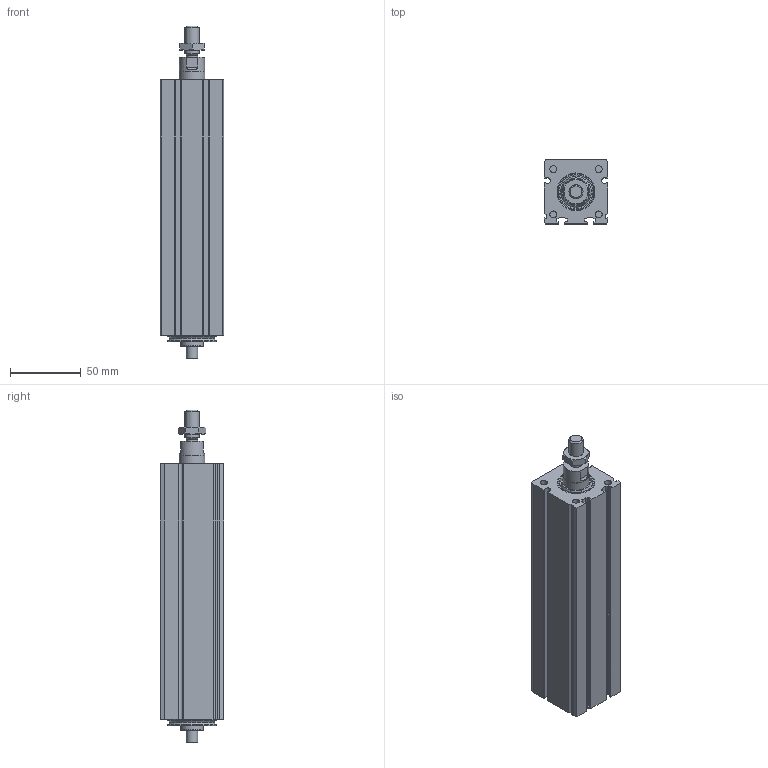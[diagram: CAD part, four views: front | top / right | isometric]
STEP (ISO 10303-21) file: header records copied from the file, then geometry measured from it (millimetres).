
FILE_DESCRIPTION(/* description */ ('STEP AP214'),/* implementation_level */ '2;1');
FILE_NAME(/* name */ 'MCE 45 1003 100 0(0)',/* time_stamp */ '2023-10-05T14:24:28+02:00',/* author */ ('License CC BY-ND 4.0'),/* organization */ ('CADENAS'),/* preprocessor_version */ 'ST-DEVELOPER v19.3',/* originating_system */ 'PARTsolutions',/* authorisation */ ' ');
FILE_SCHEMA (('AUTOMOTIVE_DESIGN {1 0 10303 214 3 1 1}'));
Length unit declared in the file: millimetre
Products named in the file (4): MCE 45 1003 100  0(0); 45_nut; 45(1000)_rod; 45(100)_msc
Assembly tree (3 placements, depth 2):
  MCE 45 1003 100  0(0)
    45_nut
    45(1000)_rod
    45(100)_msc
Bounding box: 45 x 45 x 234 mm (x, y, z)
Volume: 298516.4 mm3; surface area: 80711.3 mm2
Topology: 3 solids, 3 shells, 212 faces, 525 edges, 341 vertices
Faces by surface type: plane 92, cylinder 92, cone 23, torus 5
Full cylindrical faces by diameter (mm): 3.242 x4, 4.917 x4, 8 x2, 8.376 x1, 10 x1, 16 x1, 17.8 x1, 18 x2, 24 x1, 24.5 x1, 32.5 x2, 34 x2
Entity records: 6269 total; most frequent: CARTESIAN_POINT 1132, DIRECTION 1108, ORIENTED_EDGE 970, EDGE_CURVE 485, AXIS2_PLACEMENT_3D 433, VERTEX_POINT 339, EDGE_LOOP 274, FACE_BOUND 274
